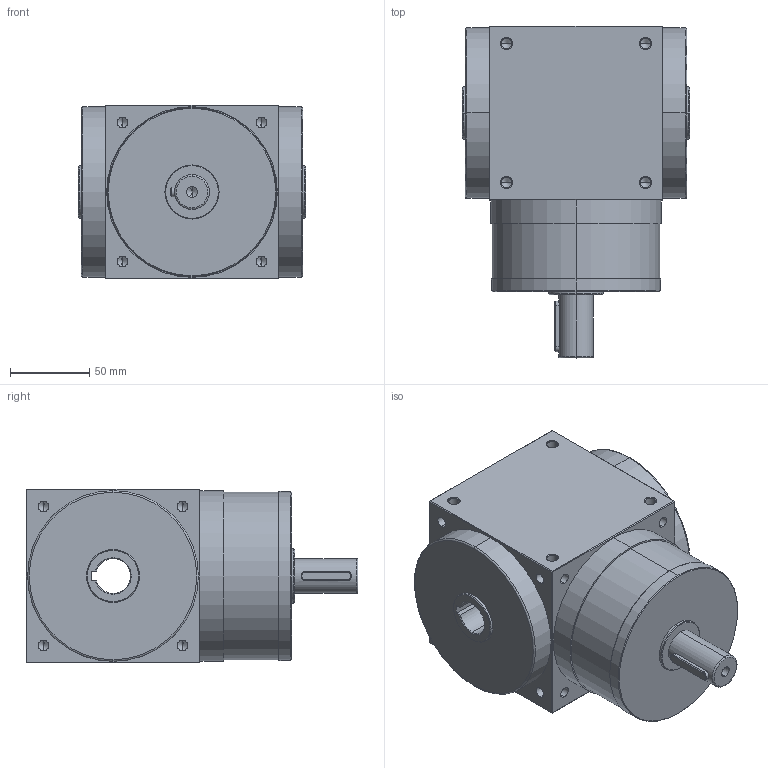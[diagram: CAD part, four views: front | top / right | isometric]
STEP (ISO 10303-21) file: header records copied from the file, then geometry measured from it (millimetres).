
FILE_DESCRIPTION (( 'STEP AP214' ), '1' );
FILE_NAME ('AT110-H-001.STEP', '2019-12-30T07:36:46', ( 'User' ), ( 'Far123' ), 'SwSTEP 2.0', 'SolidWorks 2015', '' );
FILE_SCHEMA (( 'AUTOMOTIVE_DESIGN' ));
Length unit declared in the file: millimetre
Products named in the file (1): AT110-H-001
Bounding box: 144 x 210 x 110 mm (x, y, z)
Volume: 2072394.9 mm3; surface area: 122797.3 mm2
Topology: 1 solids, 1 shells, 244 faces, 656 edges, 367 vertices
Faces by surface type: cylinder 121, cone 74, plane 43, torus 6
Entity records: 8364 total; most frequent: CARTESIAN_POINT 1772, ORIENTED_EDGE 1212, DIRECTION 1110, EDGE_CURVE 606, AXIS2_PLACEMENT_3D 425, VERTEX_POINT 367, EDGE_LOOP 281, VECTOR 260
